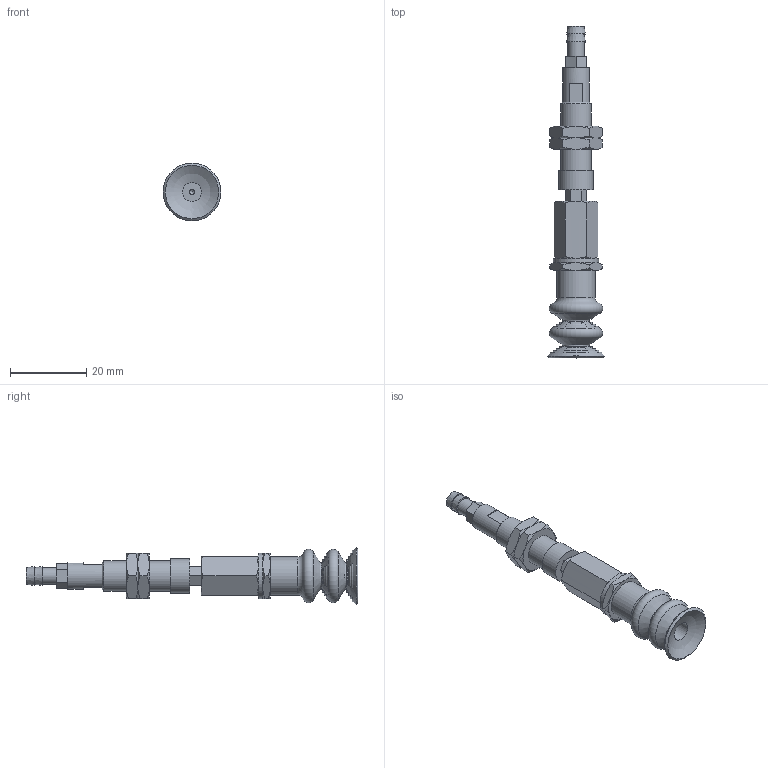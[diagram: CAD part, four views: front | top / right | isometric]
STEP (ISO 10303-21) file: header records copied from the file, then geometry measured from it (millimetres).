
FILE_DESCRIPTION(('STEP AP203'),'1');
FILE_NAME('-T.stp','2025-08-27T01:51:49',(' '),(' '),'Spatial InterOp 3D',' ',' ');
FILE_SCHEMA(('CONFIG_CONTROL_DESIGN'));
Length unit declared in the file: millimetre
Products named in the file (8): BNABPCTH-15-3-※-T; ADAPTER; NAPCTH-10-3-MBODY; Adapter_napc-15-T; Nut napc_h-15-3; NAPCTH-15-3-FBODY; BPCG-15-※; T
Assembly tree (8 placements, depth 2):
  BNABPCTH-15-3-※-T
    ADAPTER
    NAPCTH-10-3-MBODY
    Adapter_napc-15-T
    Nut napc_h-15-3  x2
    NAPCTH-15-3-FBODY
    BPCG-15-※
    T
Bounding box: 15.2 x 87.2 x 15.2 mm (x, y, z)
Volume: 5619.9 mm3; surface area: 5983.8 mm2
Topology: 8 solids, 8 shells, 248 faces, 723 edges, 466 vertices
Faces by surface type: plane 72, cone 66, sphere 58, torus 34, cylinder 18
Full cylindrical faces by diameter (mm): 1.25 x1, 3 x1, 4.134 x2, 4.3 x1, 5 x6, 7 x1, 7.188 x2, 8 x1, 9 x1, 10 x1, 12 x1
Entity records: 7125 total; most frequent: CARTESIAN_POINT 1990, DIRECTION 1028, ORIENTED_EDGE 880, AXIS2_PLACEMENT_3D 474, EDGE_CURVE 440, EDGE_LOOP 314, VERTEX_POINT 309, FACE_OUTER_BOUND 250
